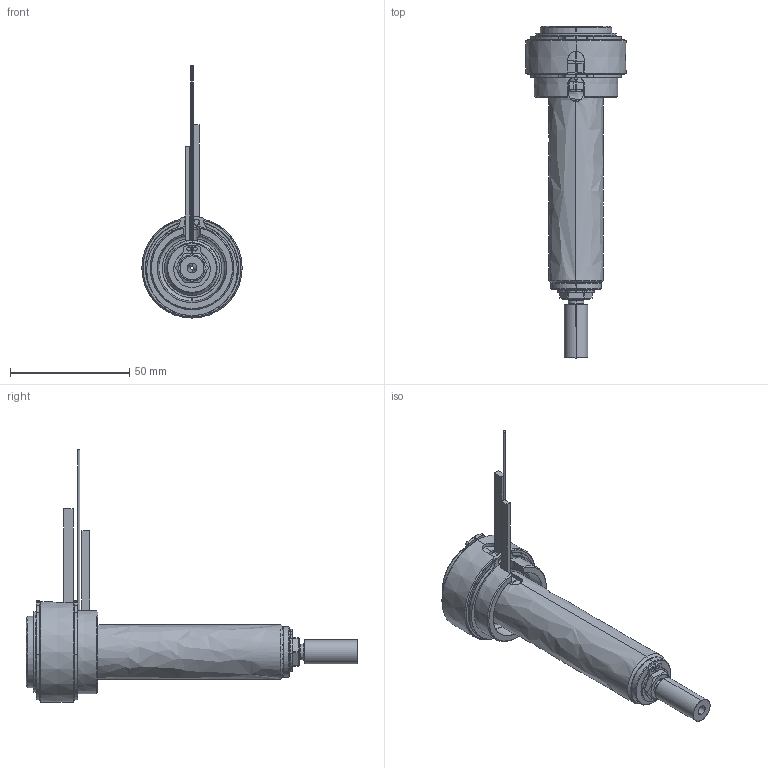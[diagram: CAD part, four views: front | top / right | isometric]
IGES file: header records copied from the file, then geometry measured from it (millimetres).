
Start section: SolidWorks IGES file using analytic representation for surfaces
Global section: file name: C:\Users\luca.EMPAD\Desktop\TEM\UGBE3502-M-A-P-3 [Ød-1.5 P-20 ØC-6.0].IGS; native system: SolidWorks 2012; preprocessor: SolidWorks 2012; author: luca; date: 120330.135630; units: millimetre
Bounding box: 42 x 139 x 105.6 mm (x, y, z)
Surface area: 28464.3 mm2 (no closed solid volume)
Topology: 0 solids, 0 shells, 182 faces, 3234 edges, 3234 vertices
Faces by surface type: revolution 116, bspline 66
